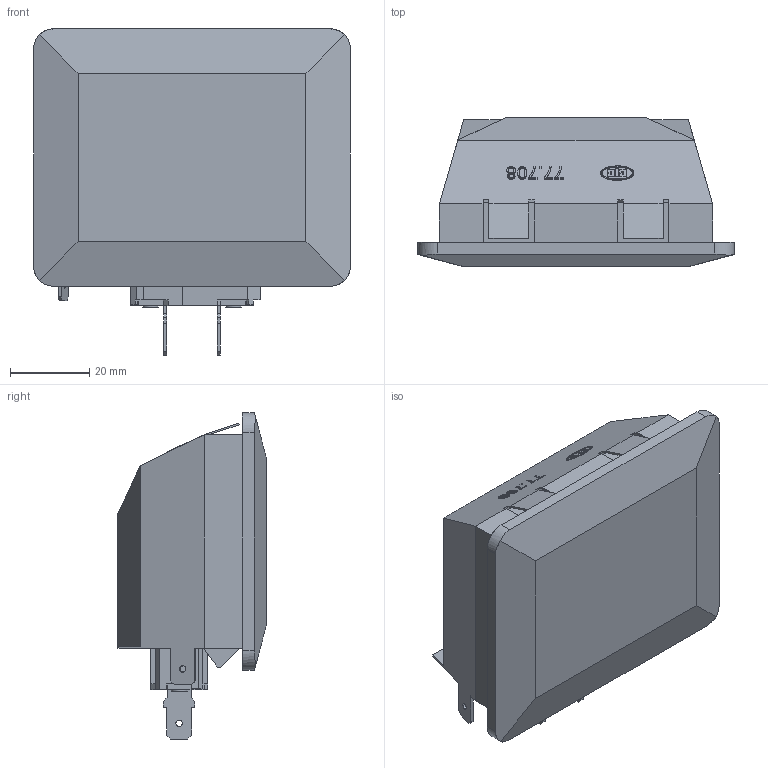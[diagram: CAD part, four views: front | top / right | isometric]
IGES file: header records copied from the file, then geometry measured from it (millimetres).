
Global section: file name: C:\coretechnologie2011\in/00ZYZ14Y03.igs; native system: CT CoreTechnologie 3D Evolution; preprocessor: 2006; author: assmuth; date: 1110802.102335; units: millimetre
Bounding box: 80 x 37.5 x 82.43 mm (x, y, z)
Surface area: 41447.8 mm2 (no closed solid volume)
Topology: 0 solids, 0 shells, 478 faces, 2592 edges, 2588 vertices
Faces by surface type: bspline 478
